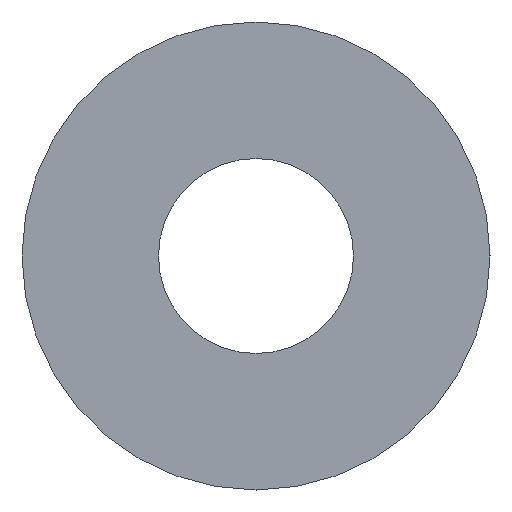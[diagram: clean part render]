
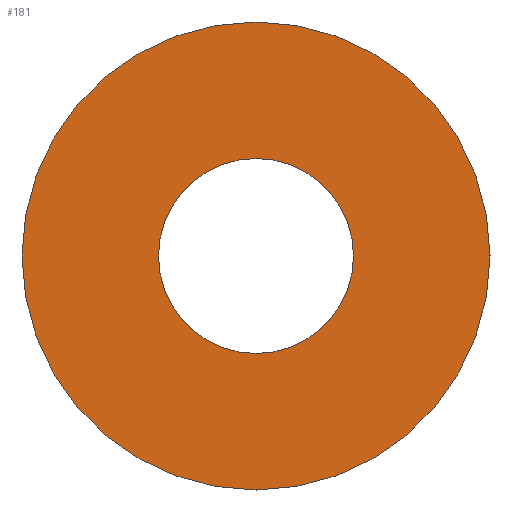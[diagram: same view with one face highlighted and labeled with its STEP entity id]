
A CAD part, front view. The second image highlights one B-rep face of the part: STEP entity #181.
In plain terms, the highlighted planar face has unit normal (0, -1, 0).
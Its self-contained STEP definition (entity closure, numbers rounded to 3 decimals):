
#4 = CARTESIAN_POINT ( 'NONE',  ( 0., -0.5, 0. ) ) ;
#5 = CIRCLE ( 'NONE', #186, 1.25 ) ;
#6 = VERTEX_POINT ( 'NONE', #127 ) ;
#8 = EDGE_CURVE ( 'NONE', #149, #84, #16, .T. ) ;
#9 = DIRECTION ( 'NONE',  ( 0., 1., 0. ) ) ;
#16 = CIRCLE ( 'NONE', #18, 1.25 ) ;
#18 = AXIS2_PLACEMENT_3D ( 'NONE', #4, #28, #48 ) ;
#28 = DIRECTION ( 'NONE',  ( 0., 1., 0. ) ) ;
#32 = CARTESIAN_POINT ( 'NONE',  ( 0., -0.5, -1.25 ) ) ;
#37 = DIRECTION ( 'NONE',  ( 0., 0., 1. ) ) ;
#45 = CIRCLE ( 'NONE', #176, 3. ) ;
#46 = CIRCLE ( 'NONE', #247, 3. ) ;
#47 = FACE_BOUND ( 'NONE', #169, .T. ) ;
#48 = DIRECTION ( 'NONE',  ( 0., 0., 1. ) ) ;
#49 = ORIENTED_EDGE ( 'NONE', *, *, #194, .T. ) ;
#53 = CARTESIAN_POINT ( 'NONE',  ( 0., -0.5, 3. ) ) ;
#63 = FACE_OUTER_BOUND ( 'NONE', #160, .T. ) ;
#71 = CARTESIAN_POINT ( 'NONE',  ( 0., -0.5, 0. ) ) ;
#73 = ORIENTED_EDGE ( 'NONE', *, *, #8, .T. ) ;
#84 = VERTEX_POINT ( 'NONE', #90 ) ;
#90 = CARTESIAN_POINT ( 'NONE',  ( 0., -0.5, 1.25 ) ) ;
#94 = DIRECTION ( 'NONE',  ( 0., 0., -1. ) ) ;
#100 = DIRECTION ( 'NONE',  ( 0., 1., 0. ) ) ;
#126 = VERTEX_POINT ( 'NONE', #205 ) ;
#127 = CARTESIAN_POINT ( 'NONE',  ( 0., -0.5, -3. ) ) ;
#135 = DIRECTION ( 'NONE',  ( 0., 0., 1. ) ) ;
#141 = EDGE_CURVE ( 'NONE', #6, #126, #45, .T. ) ;
#149 = VERTEX_POINT ( 'NONE', #32 ) ;
#150 = PLANE ( 'NONE',  #217 ) ;
#154 = ORIENTED_EDGE ( 'NONE', *, *, #141, .F. ) ;
#160 = EDGE_LOOP ( 'NONE', ( #183, #154 ) ) ;
#169 = EDGE_LOOP ( 'NONE', ( #49, #73 ) ) ;
#171 = CARTESIAN_POINT ( 'NONE',  ( 0., -0.5, 0. ) ) ;
#176 = AXIS2_PLACEMENT_3D ( 'NONE', #204, #9, #37 ) ;
#181 = ADVANCED_FACE ( 'NONE', ( #47, #63 ), #150, .T. ) ;
#183 = ORIENTED_EDGE ( 'NONE', *, *, #210, .F. ) ;
#184 = DIRECTION ( 'NONE',  ( 0., -1., 0. ) ) ;
#186 = AXIS2_PLACEMENT_3D ( 'NONE', #71, #209, #135 ) ;
#194 = EDGE_CURVE ( 'NONE', #84, #149, #5, .T. ) ;
#204 = CARTESIAN_POINT ( 'NONE',  ( 0., -0.5, 0. ) ) ;
#205 = CARTESIAN_POINT ( 'NONE',  ( 0., -0.5, 3. ) ) ;
#209 = DIRECTION ( 'NONE',  ( 0., 1., 0. ) ) ;
#210 = EDGE_CURVE ( 'NONE', #126, #6, #46, .T. ) ;
#216 = DIRECTION ( 'NONE',  ( 0., 0., 1. ) ) ;
#217 = AXIS2_PLACEMENT_3D ( 'NONE', #53, #184, #94 ) ;
#247 = AXIS2_PLACEMENT_3D ( 'NONE', #171, #100, #216 ) ;
